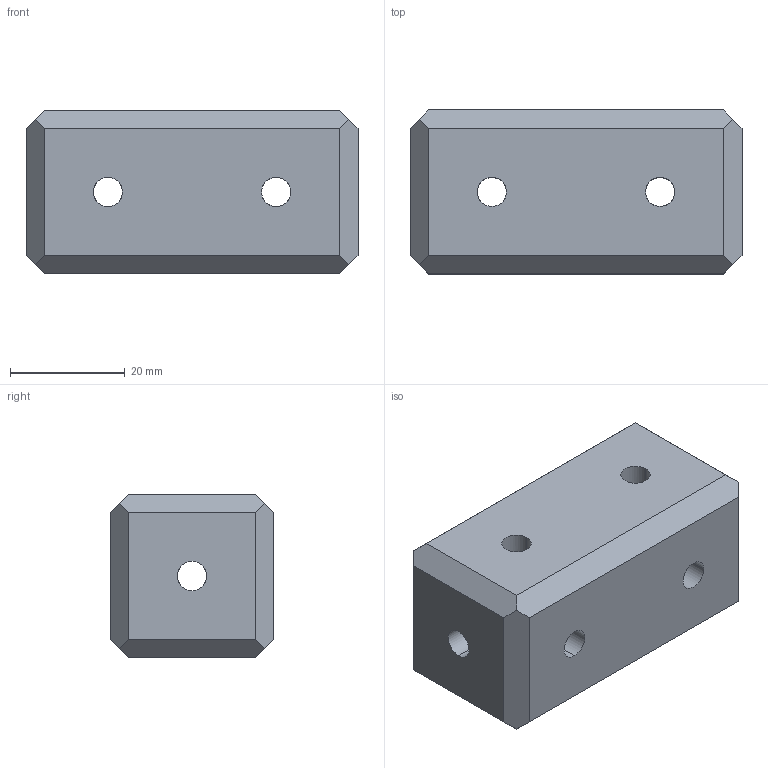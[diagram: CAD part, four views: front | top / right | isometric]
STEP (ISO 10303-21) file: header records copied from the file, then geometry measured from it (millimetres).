
FILE_DESCRIPTION (( 'STEP AP214' ), '1' );
FILE_NAME ('Modular 1X2 Block Connector.STEP', '2014-01-08T21:23:08', ( 'ydmin' ), ( 'Microsoft' ), 'SwSTEP 2.0', 'SolidWorks 2013', '' );
FILE_SCHEMA (( 'AUTOMOTIVE_DESIGN' ));
Length unit declared in the file: inch
Products named in the file (1): Modular 1X2 Block Connector
Bounding box: 57.91 x 28.57 x 28.57 mm (x, y, z)
Volume: 42010.1 mm3; surface area: 9496.8 mm2
Topology: 1 solids, 1 shells, 40 faces, 130 edges, 84 vertices
Faces by surface type: cylinder 22, plane 18
Entity records: 2006 total; most frequent: CARTESIAN_POINT 375, ORIENTED_EDGE 260, DIRECTION 192, EDGE_CURVE 130, VERTEX_POINT 84, LINE 70, VECTOR 70, AXIS2_PLACEMENT_3D 61
